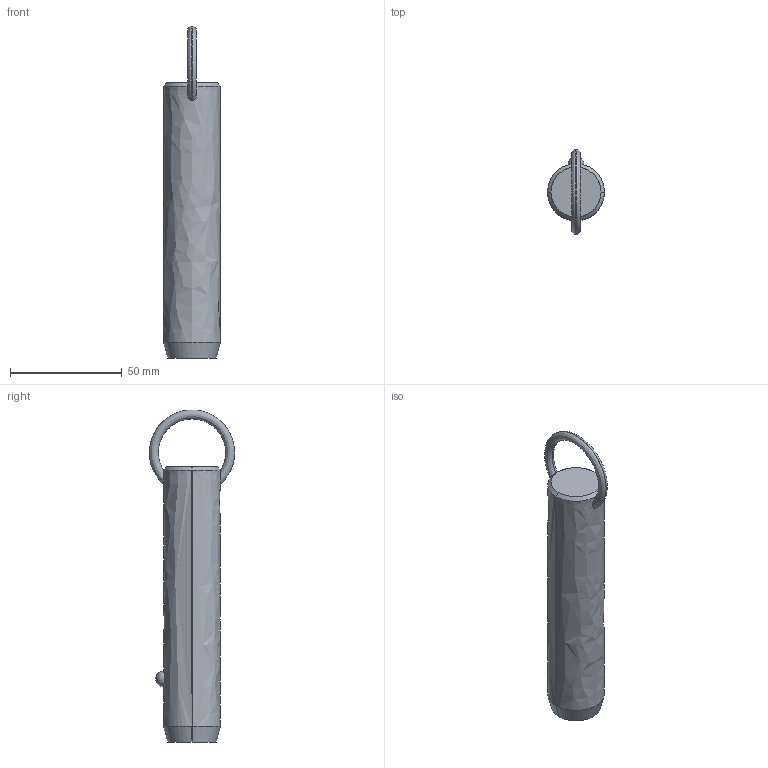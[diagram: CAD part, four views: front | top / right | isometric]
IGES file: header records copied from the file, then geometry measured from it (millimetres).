
Start section: SolidWorks IGES file using analytic representation for surfaces
Global section: file name: C:\Users\liam_\OneDrive\Documents\WORK\Work for WixRoyd\Job Files\J-00019 - Matt Davis CAD Checking\04. CAD Drawings\automotion20190605\P1250.2_v2\P1250.2_v2_20190729_IGES\P1250.100-310.igs; native system: SolidWorks 2017; preprocessor: SolidWorks 2017; author: liam_; date: 190730.173710; units: millimetre
Bounding box: 25.4 x 38.1 x 148.5 mm (x, y, z)
Surface area: 11596.3 mm2 (no closed solid volume)
Topology: 0 solids, 0 shells, 12 faces, 298 edges, 296 vertices
Faces by surface type: revolution 8, bspline 4
